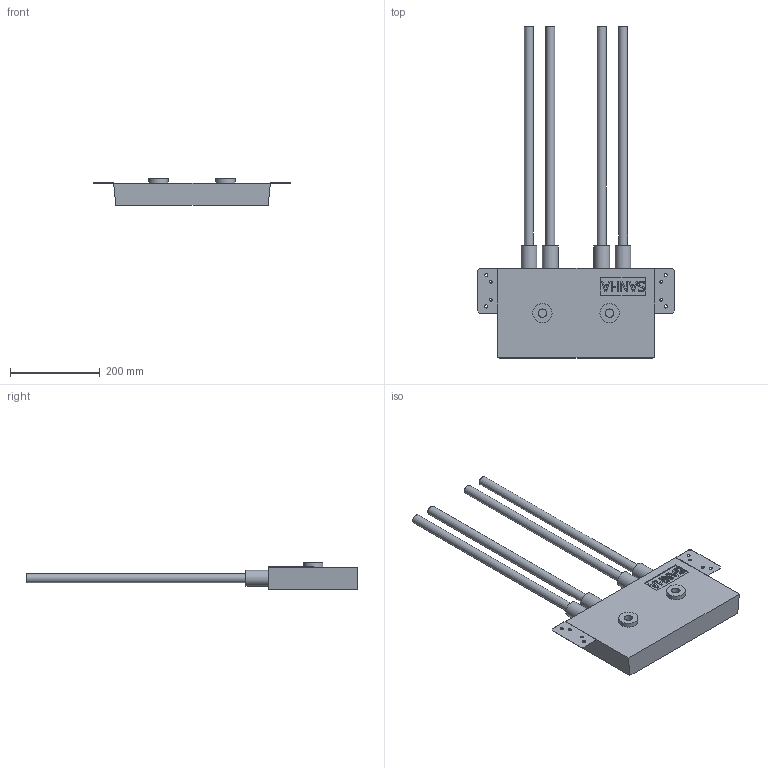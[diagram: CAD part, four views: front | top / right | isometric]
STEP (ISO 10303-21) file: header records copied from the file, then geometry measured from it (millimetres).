
FILE_DESCRIPTION(/* description */ (''),/* implementation_level */ '2;1');
FILE_NAME(/* name */ '\\LG50011\SANHA_Legnica\Engineering\Public\PROJEKTY\SANHA-BOX_Support_BiR\002-Rysunki_Boxów\25-BWDUZ-T\Zespół-325BWDUZT20.stp',/* time_stamp */ '2018-11-05T14:30:30+01:00',/* author */ ('gomulka'),/* organization */ (''),/* preprocessor_version */ 'ST-DEVELOPER v16.13',/* originating_system */ 'Autodesk Inventor 2018',/* authorisation */ '');
FILE_SCHEMA (('AUTOMOTIVE_DESIGN { 1 0 10303 214 3 1 1 }'));
Length unit declared in the file: millimetre
Products named in the file (4): Zespół-325BWDUZT20; KSBMPDW2; 325BWDUZT20; Rura_20x2
Assembly tree (7 placements, depth 2):
  Zespół-325BWDUZT20
    Rura_20x2  x4
    KSBMPDW2  x2
    325BWDUZT20
Bounding box: 440.74 x 741.09 x 60 mm (x, y, z)
Volume: 3813825.5 mm3; surface area: 480834.7 mm2
Topology: 7 solids, 7 shells, 146 faces, 336 edges, 224 vertices
Faces by surface type: plane 102, cylinder 28, bspline 16
Full cylindrical faces by diameter (mm): 6.1 x4, 7 x4, 16 x4, 18.631 x2, 20 x8, 35 x4, 43 x2
Entity records: 3681 total; most frequent: CARTESIAN_POINT 803, ORIENTED_EDGE 540, DIRECTION 508, EDGE_CURVE 270, LINE 202, VECTOR 202, VERTEX_POINT 192, EDGE_LOOP 170
